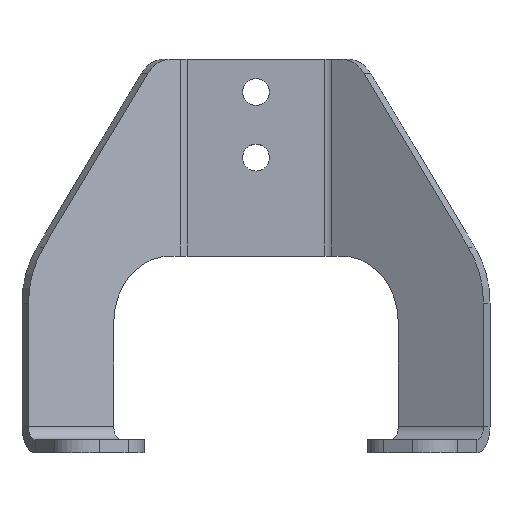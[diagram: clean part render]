
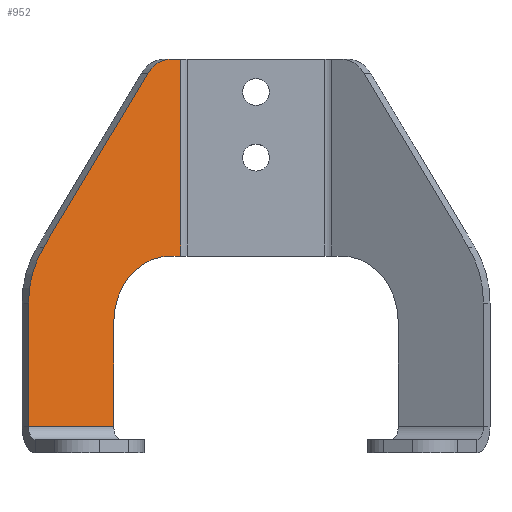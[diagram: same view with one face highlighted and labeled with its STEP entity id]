
A CAD part, top view. The second image highlights one B-rep face of the part: STEP entity #952.
In plain terms, the highlighted planar face has unit normal (0.5, 0, 0.866).
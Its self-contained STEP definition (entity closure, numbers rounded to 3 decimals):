
#23=PLANE('',#1032);
#60=FACE_OUTER_BOUND('',#118,.T.);
#118=EDGE_LOOP('',(#649,#650,#651,#652,#653,#654,#655,#656,#657,#658));
#185=LINE('',#1459,#277);
#186=LINE('',#1461,#278);
#187=LINE('',#1463,#279);
#188=LINE('',#1467,#280);
#189=LINE('',#1469,#281);
#190=LINE('',#1471,#282);
#191=LINE('',#1474,#283);
#277=VECTOR('',#1149,10.);
#278=VECTOR('',#1150,10.);
#279=VECTOR('',#1151,10.);
#280=VECTOR('',#1154,10.);
#281=VECTOR('',#1155,10.);
#282=VECTOR('',#1156,10.);
#283=VECTOR('',#1159,10.);
#367=CIRCLE('',#1030,30.);
#369=CIRCLE('',#1033,20.);
#370=CIRCLE('',#1034,10.);
#417=VERTEX_POINT('',#1449);
#418=VERTEX_POINT('',#1450);
#421=VERTEX_POINT('',#1458);
#422=VERTEX_POINT('',#1460);
#423=VERTEX_POINT('',#1462);
#424=VERTEX_POINT('',#1464);
#425=VERTEX_POINT('',#1466);
#426=VERTEX_POINT('',#1468);
#427=VERTEX_POINT('',#1470);
#428=VERTEX_POINT('',#1472);
#503=EDGE_CURVE('',#417,#418,#367,.T.);
#507=EDGE_CURVE('',#421,#417,#185,.T.);
#508=EDGE_CURVE('',#421,#422,#186,.T.);
#509=EDGE_CURVE('',#422,#423,#187,.T.);
#510=EDGE_CURVE('',#424,#423,#369,.T.);
#511=EDGE_CURVE('',#424,#425,#188,.T.);
#512=EDGE_CURVE('',#425,#426,#189,.T.);
#513=EDGE_CURVE('',#427,#426,#190,.T.);
#514=EDGE_CURVE('',#428,#427,#370,.T.);
#515=EDGE_CURVE('',#418,#428,#191,.T.);
#649=ORIENTED_EDGE('',*,*,#503,.F.);
#650=ORIENTED_EDGE('',*,*,#507,.F.);
#651=ORIENTED_EDGE('',*,*,#508,.T.);
#652=ORIENTED_EDGE('',*,*,#509,.T.);
#653=ORIENTED_EDGE('',*,*,#510,.F.);
#654=ORIENTED_EDGE('',*,*,#511,.T.);
#655=ORIENTED_EDGE('',*,*,#512,.T.);
#656=ORIENTED_EDGE('',*,*,#513,.F.);
#657=ORIENTED_EDGE('',*,*,#514,.F.);
#658=ORIENTED_EDGE('',*,*,#515,.F.);
#952=ADVANCED_FACE('',(#60),#23,.T.);
#1030=AXIS2_PLACEMENT_3D('',#1451,#1141,#1142);
#1032=AXIS2_PLACEMENT_3D('',#1457,#1147,#1148);
#1033=AXIS2_PLACEMENT_3D('',#1465,#1152,#1153);
#1034=AXIS2_PLACEMENT_3D('',#1473,#1157,#1158);
#1141=DIRECTION('center_axis',(-0.5,0.,-0.866));
#1142=DIRECTION('ref_axis',(-0.827,0.298,0.477));
#1147=DIRECTION('center_axis',(0.5,0.,0.866));
#1148=DIRECTION('ref_axis',(0.866,0.,-0.5));
#1149=DIRECTION('',(0.,1.,0.));
#1150=DIRECTION('',(0.866,0.,-0.5));
#1151=DIRECTION('',(0.,1.,0.));
#1152=DIRECTION('center_axis',(0.5,0.,0.866));
#1153=DIRECTION('ref_axis',(-0.612,0.707,0.354));
#1154=DIRECTION('',(0.866,0.,-0.5));
#1155=DIRECTION('',(0.,1.,0.));
#1156=DIRECTION('',(0.866,0.,-0.5));
#1157=DIRECTION('center_axis',(-0.5,0.,-0.866));
#1158=DIRECTION('ref_axis',(-0.402,0.886,0.232));
#1159=DIRECTION('',(0.493,0.822,-0.285));
#1449=CARTESIAN_POINT('',(8.183,45.629,31.282));
#1450=CARTESIAN_POINT('',(12.802,62.705,28.615));
#1451=CARTESIAN_POINT('Origin',(34.163,45.629,16.282));
#1457=CARTESIAN_POINT('Origin',(75.299,50.521,-7.468));
#1458=CARTESIAN_POINT('',(8.183,8.,31.282));
#1459=CARTESIAN_POINT('',(8.183,120.,31.282));
#1460=CARTESIAN_POINT('',(34.163,8.,16.282));
#1461=CARTESIAN_POINT('',(54.731,8.,4.407));
#1462=CARTESIAN_POINT('',(34.163,40.,16.282));
#1463=CARTESIAN_POINT('',(34.163,25.26,16.282));
#1464=CARTESIAN_POINT('',(51.484,60.,6.282));
#1465=CARTESIAN_POINT('Origin',(51.484,40.,6.282));
#1466=CARTESIAN_POINT('',(54.508,60.,4.536));
#1467=CARTESIAN_POINT('',(54.731,60.,4.407));
#1468=CARTESIAN_POINT('',(54.508,120.,4.536));
#1469=CARTESIAN_POINT('',(54.508,85.26,4.536));
#1470=CARTESIAN_POINT('',(51.691,120.,6.162));
#1471=CARTESIAN_POINT('',(142.416,120.,-46.218));
#1472=CARTESIAN_POINT('',(44.571,115.692,10.273));
#1473=CARTESIAN_POINT('Origin',(51.691,110.,6.162));
#1474=CARTESIAN_POINT('',(47.154,120.,8.782));
